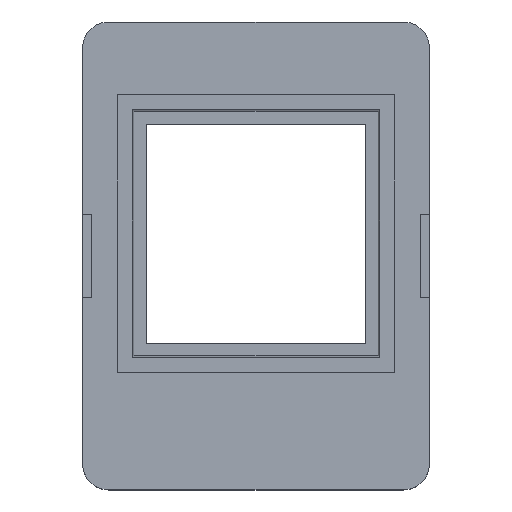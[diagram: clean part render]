
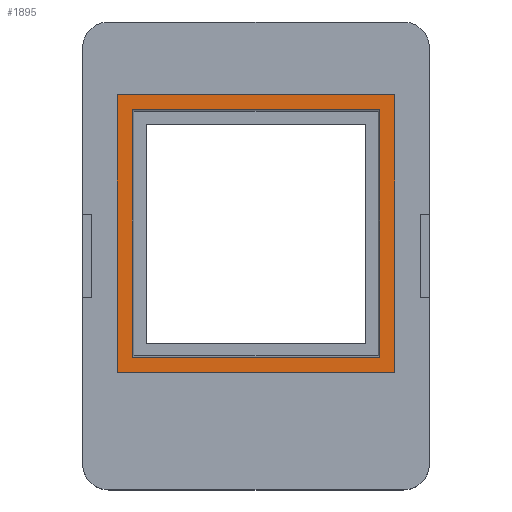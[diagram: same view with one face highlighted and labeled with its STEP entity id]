
A CAD part, top view. The second image highlights one B-rep face of the part: STEP entity #1895.
In plain terms, the highlighted planar face has unit normal (0, 0, 1).
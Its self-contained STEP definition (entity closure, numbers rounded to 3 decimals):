
#627 = PLANE('',#628);
#628 = AXIS2_PLACEMENT_3D('',#629,#630,#631);
#629 = CARTESIAN_POINT('',(-17.15,-14.38,3.));
#630 = DIRECTION('',(1.,0.,0.));
#631 = DIRECTION('',(0.,0.,1.));
#655 = PLANE('',#656);
#656 = AXIS2_PLACEMENT_3D('',#657,#658,#659);
#657 = CARTESIAN_POINT('',(-17.15,19.92,3.));
#658 = DIRECTION('',(0.,1.,0.));
#659 = DIRECTION('',(0.,0.,1.));
#683 = PLANE('',#684);
#684 = AXIS2_PLACEMENT_3D('',#685,#686,#687);
#685 = CARTESIAN_POINT('',(17.15,-14.38,3.));
#686 = DIRECTION('',(1.,0.,0.));
#687 = DIRECTION('',(0.,0.,1.));
#709 = PLANE('',#710);
#710 = AXIS2_PLACEMENT_3D('',#711,#712,#713);
#711 = CARTESIAN_POINT('',(-17.15,-14.38,3.));
#712 = DIRECTION('',(0.,1.,0.));
#713 = DIRECTION('',(0.,0.,1.));
#1499 = VERTEX_POINT('',#1500);
#1500 = CARTESIAN_POINT('',(-17.15,-14.38,6.5));
#1523 = VERTEX_POINT('',#1524);
#1524 = CARTESIAN_POINT('',(-17.15,19.92,6.5));
#1545 = EDGE_CURVE('',#1499,#1523,#1546,.T.);
#1546 = SURFACE_CURVE('',#1547,(#1551,#1558),.PCURVE_S1.);
#1547 = LINE('',#1548,#1549);
#1548 = CARTESIAN_POINT('',(-17.15,-14.38,6.5));
#1549 = VECTOR('',#1550,1.);
#1550 = DIRECTION('',(0.,1.,0.));
#1551 = PCURVE('',#627,#1552);
#1552 = DEFINITIONAL_REPRESENTATION('',(#1553),#1557);
#1553 = LINE('',#1554,#1555);
#1554 = CARTESIAN_POINT('',(3.5,0.));
#1555 = VECTOR('',#1556,1.);
#1556 = DIRECTION('',(0.,-1.));
#1557 = ( GEOMETRIC_REPRESENTATION_CONTEXT(2) 
PARAMETRIC_REPRESENTATION_CONTEXT() REPRESENTATION_CONTEXT('2D SPACE',''
  ) );
#1558 = PCURVE('',#1559,#1564);
#1559 = PLANE('',#1560);
#1560 = AXIS2_PLACEMENT_3D('',#1561,#1562,#1563);
#1561 = CARTESIAN_POINT('',(-17.15,-14.38,6.5));
#1562 = DIRECTION('',(0.,0.,1.));
#1563 = DIRECTION('',(1.,0.,0.));
#1564 = DEFINITIONAL_REPRESENTATION('',(#1565),#1569);
#1565 = LINE('',#1566,#1567);
#1566 = CARTESIAN_POINT('',(0.,0.));
#1567 = VECTOR('',#1568,1.);
#1568 = DIRECTION('',(0.,1.));
#1569 = ( GEOMETRIC_REPRESENTATION_CONTEXT(2) 
PARAMETRIC_REPRESENTATION_CONTEXT() REPRESENTATION_CONTEXT('2D SPACE',''
  ) );
#1576 = EDGE_CURVE('',#1523,#1577,#1579,.T.);
#1577 = VERTEX_POINT('',#1578);
#1578 = CARTESIAN_POINT('',(17.15,19.92,6.5));
#1579 = SURFACE_CURVE('',#1580,(#1584,#1591),.PCURVE_S1.);
#1580 = LINE('',#1581,#1582);
#1581 = CARTESIAN_POINT('',(-17.15,19.92,6.5));
#1582 = VECTOR('',#1583,1.);
#1583 = DIRECTION('',(1.,0.,0.));
#1584 = PCURVE('',#655,#1585);
#1585 = DEFINITIONAL_REPRESENTATION('',(#1586),#1590);
#1586 = LINE('',#1587,#1588);
#1587 = CARTESIAN_POINT('',(3.5,0.));
#1588 = VECTOR('',#1589,1.);
#1589 = DIRECTION('',(0.,1.));
#1590 = ( GEOMETRIC_REPRESENTATION_CONTEXT(2) 
PARAMETRIC_REPRESENTATION_CONTEXT() REPRESENTATION_CONTEXT('2D SPACE',''
  ) );
#1591 = PCURVE('',#1559,#1592);
#1592 = DEFINITIONAL_REPRESENTATION('',(#1593),#1597);
#1593 = LINE('',#1594,#1595);
#1594 = CARTESIAN_POINT('',(0.,34.3));
#1595 = VECTOR('',#1596,1.);
#1596 = DIRECTION('',(1.,0.));
#1597 = ( GEOMETRIC_REPRESENTATION_CONTEXT(2) 
PARAMETRIC_REPRESENTATION_CONTEXT() REPRESENTATION_CONTEXT('2D SPACE',''
  ) );
#1625 = EDGE_CURVE('',#1499,#1626,#1628,.T.);
#1626 = VERTEX_POINT('',#1627);
#1627 = CARTESIAN_POINT('',(17.15,-14.38,6.5));
#1628 = SURFACE_CURVE('',#1629,(#1633,#1640),.PCURVE_S1.);
#1629 = LINE('',#1630,#1631);
#1630 = CARTESIAN_POINT('',(-17.15,-14.38,6.5));
#1631 = VECTOR('',#1632,1.);
#1632 = DIRECTION('',(1.,0.,0.));
#1633 = PCURVE('',#709,#1634);
#1634 = DEFINITIONAL_REPRESENTATION('',(#1635),#1639);
#1635 = LINE('',#1636,#1637);
#1636 = CARTESIAN_POINT('',(3.5,0.));
#1637 = VECTOR('',#1638,1.);
#1638 = DIRECTION('',(0.,1.));
#1639 = ( GEOMETRIC_REPRESENTATION_CONTEXT(2) 
PARAMETRIC_REPRESENTATION_CONTEXT() REPRESENTATION_CONTEXT('2D SPACE',''
  ) );
#1640 = PCURVE('',#1559,#1641);
#1641 = DEFINITIONAL_REPRESENTATION('',(#1642),#1646);
#1642 = LINE('',#1643,#1644);
#1643 = CARTESIAN_POINT('',(0.,0.));
#1644 = VECTOR('',#1645,1.);
#1645 = DIRECTION('',(1.,0.));
#1646 = ( GEOMETRIC_REPRESENTATION_CONTEXT(2) 
PARAMETRIC_REPRESENTATION_CONTEXT() REPRESENTATION_CONTEXT('2D SPACE',''
  ) );
#1675 = EDGE_CURVE('',#1626,#1577,#1676,.T.);
#1676 = SURFACE_CURVE('',#1677,(#1681,#1688),.PCURVE_S1.);
#1677 = LINE('',#1678,#1679);
#1678 = CARTESIAN_POINT('',(17.15,-14.38,6.5));
#1679 = VECTOR('',#1680,1.);
#1680 = DIRECTION('',(0.,1.,0.));
#1681 = PCURVE('',#683,#1682);
#1682 = DEFINITIONAL_REPRESENTATION('',(#1683),#1687);
#1683 = LINE('',#1684,#1685);
#1684 = CARTESIAN_POINT('',(3.5,0.));
#1685 = VECTOR('',#1686,1.);
#1686 = DIRECTION('',(0.,-1.));
#1687 = ( GEOMETRIC_REPRESENTATION_CONTEXT(2) 
PARAMETRIC_REPRESENTATION_CONTEXT() REPRESENTATION_CONTEXT('2D SPACE',''
  ) );
#1688 = PCURVE('',#1559,#1689);
#1689 = DEFINITIONAL_REPRESENTATION('',(#1690),#1694);
#1690 = LINE('',#1691,#1692);
#1691 = CARTESIAN_POINT('',(34.3,0.));
#1692 = VECTOR('',#1693,1.);
#1693 = DIRECTION('',(0.,1.));
#1694 = ( GEOMETRIC_REPRESENTATION_CONTEXT(2) 
PARAMETRIC_REPRESENTATION_CONTEXT() REPRESENTATION_CONTEXT('2D SPACE',''
  ) );
#1895 = ADVANCED_FACE('',(#1896,#1902),#1559,.T.);
#1896 = FACE_BOUND('',#1897,.T.);
#1897 = EDGE_LOOP('',(#1898,#1899,#1900,#1901));
#1898 = ORIENTED_EDGE('',*,*,#1545,.F.);
#1899 = ORIENTED_EDGE('',*,*,#1625,.T.);
#1900 = ORIENTED_EDGE('',*,*,#1675,.T.);
#1901 = ORIENTED_EDGE('',*,*,#1576,.F.);
#1902 = FACE_BOUND('',#1903,.T.);
#1903 = EDGE_LOOP('',(#1904,#1931,#1956,#1981));
#1904 = ORIENTED_EDGE('',*,*,#1905,.T.);
#1905 = EDGE_CURVE('',#1906,#1908,#1910,.T.);
#1906 = VERTEX_POINT('',#1907);
#1907 = CARTESIAN_POINT('',(15.33,18.1,6.5));
#1908 = VERTEX_POINT('',#1909);
#1909 = CARTESIAN_POINT('',(15.33,-12.56,6.5));
#1910 = SURFACE_CURVE('',#1911,(#1914,#1920),.PCURVE_S1.);
#1911 = B_SPLINE_CURVE_WITH_KNOTS('',1,(#1912,#1913),.UNSPECIFIED.,.F.,
  .F.,(2,2),(0.,1.),.PIECEWISE_BEZIER_KNOTS.);
#1912 = CARTESIAN_POINT('',(15.33,18.1,6.5));
#1913 = CARTESIAN_POINT('',(15.33,-12.56,6.5));
#1914 = PCURVE('',#1559,#1915);
#1915 = DEFINITIONAL_REPRESENTATION('',(#1916),#1919);
#1916 = B_SPLINE_CURVE_WITH_KNOTS('',1,(#1917,#1918),.UNSPECIFIED.,.F.,
  .F.,(2,2),(0.,1.),.PIECEWISE_BEZIER_KNOTS.);
#1917 = CARTESIAN_POINT('',(32.48,32.48));
#1918 = CARTESIAN_POINT('',(32.48,1.82));
#1919 = ( GEOMETRIC_REPRESENTATION_CONTEXT(2) 
PARAMETRIC_REPRESENTATION_CONTEXT() REPRESENTATION_CONTEXT('2D SPACE',''
  ) );
#1920 = PCURVE('',#1921,#1926);
#1921 = B_SPLINE_SURFACE_WITH_KNOTS('',1,1,(
    (#1922,#1923)
    ,(#1924,#1925
    )),.UNSPECIFIED.,.F.,.F.,.F.,(2,2),(2,2),(0.,30.7),(0.,1.),
  .PIECEWISE_BEZIER_KNOTS.);
#1922 = CARTESIAN_POINT('',(15.15,-12.38,5.6));
#1923 = CARTESIAN_POINT('',(15.35,-12.58,6.6));
#1924 = CARTESIAN_POINT('',(15.15,17.92,5.6));
#1925 = CARTESIAN_POINT('',(15.35,18.12,6.6));
#1926 = DEFINITIONAL_REPRESENTATION('',(#1927),#1930);
#1927 = B_SPLINE_CURVE_WITH_KNOTS('',1,(#1928,#1929),.UNSPECIFIED.,.F.,
  .F.,(2,2),(0.,1.),.PIECEWISE_BEZIER_KNOTS.);
#1928 = CARTESIAN_POINT('',(30.7,0.9));
#1929 = CARTESIAN_POINT('',(0.,0.9));
#1930 = ( GEOMETRIC_REPRESENTATION_CONTEXT(2) 
PARAMETRIC_REPRESENTATION_CONTEXT() REPRESENTATION_CONTEXT('2D SPACE',''
  ) );
#1931 = ORIENTED_EDGE('',*,*,#1932,.T.);
#1932 = EDGE_CURVE('',#1908,#1933,#1935,.T.);
#1933 = VERTEX_POINT('',#1934);
#1934 = CARTESIAN_POINT('',(-15.33,-12.56,6.5));
#1935 = SURFACE_CURVE('',#1936,(#1939,#1945),.PCURVE_S1.);
#1936 = B_SPLINE_CURVE_WITH_KNOTS('',1,(#1937,#1938),.UNSPECIFIED.,.F.,
  .F.,(2,2),(0.,1.),.PIECEWISE_BEZIER_KNOTS.);
#1937 = CARTESIAN_POINT('',(15.33,-12.56,6.5));
#1938 = CARTESIAN_POINT('',(-15.33,-12.56,6.5));
#1939 = PCURVE('',#1559,#1940);
#1940 = DEFINITIONAL_REPRESENTATION('',(#1941),#1944);
#1941 = B_SPLINE_CURVE_WITH_KNOTS('',1,(#1942,#1943),.UNSPECIFIED.,.F.,
  .F.,(2,2),(0.,1.),.PIECEWISE_BEZIER_KNOTS.);
#1942 = CARTESIAN_POINT('',(32.48,1.82));
#1943 = CARTESIAN_POINT('',(1.82,1.82));
#1944 = ( GEOMETRIC_REPRESENTATION_CONTEXT(2) 
PARAMETRIC_REPRESENTATION_CONTEXT() REPRESENTATION_CONTEXT('2D SPACE',''
  ) );
#1945 = PCURVE('',#1946,#1951);
#1946 = B_SPLINE_SURFACE_WITH_KNOTS('',1,1,(
    (#1947,#1948)
    ,(#1949,#1950
    )),.UNSPECIFIED.,.F.,.F.,.F.,(2,2),(2,2),(0.,30.7),(0.,1.),
  .PIECEWISE_BEZIER_KNOTS.);
#1947 = CARTESIAN_POINT('',(-15.15,-12.38,5.6));
#1948 = CARTESIAN_POINT('',(-15.35,-12.58,6.6));
#1949 = CARTESIAN_POINT('',(15.15,-12.38,5.6));
#1950 = CARTESIAN_POINT('',(15.35,-12.58,6.6));
#1951 = DEFINITIONAL_REPRESENTATION('',(#1952),#1955);
#1952 = B_SPLINE_CURVE_WITH_KNOTS('',1,(#1953,#1954),.UNSPECIFIED.,.F.,
  .F.,(2,2),(0.,1.),.PIECEWISE_BEZIER_KNOTS.);
#1953 = CARTESIAN_POINT('',(30.7,0.9));
#1954 = CARTESIAN_POINT('',(0.,0.9));
#1955 = ( GEOMETRIC_REPRESENTATION_CONTEXT(2) 
PARAMETRIC_REPRESENTATION_CONTEXT() REPRESENTATION_CONTEXT('2D SPACE',''
  ) );
#1956 = ORIENTED_EDGE('',*,*,#1957,.T.);
#1957 = EDGE_CURVE('',#1933,#1958,#1960,.T.);
#1958 = VERTEX_POINT('',#1959);
#1959 = CARTESIAN_POINT('',(-15.33,18.1,6.5));
#1960 = SURFACE_CURVE('',#1961,(#1964,#1970),.PCURVE_S1.);
#1961 = B_SPLINE_CURVE_WITH_KNOTS('',1,(#1962,#1963),.UNSPECIFIED.,.F.,
  .F.,(2,2),(0.,1.),.PIECEWISE_BEZIER_KNOTS.);
#1962 = CARTESIAN_POINT('',(-15.33,-12.56,6.5));
#1963 = CARTESIAN_POINT('',(-15.33,18.1,6.5));
#1964 = PCURVE('',#1559,#1965);
#1965 = DEFINITIONAL_REPRESENTATION('',(#1966),#1969);
#1966 = B_SPLINE_CURVE_WITH_KNOTS('',1,(#1967,#1968),.UNSPECIFIED.,.F.,
  .F.,(2,2),(0.,1.),.PIECEWISE_BEZIER_KNOTS.);
#1967 = CARTESIAN_POINT('',(1.82,1.82));
#1968 = CARTESIAN_POINT('',(1.82,32.48));
#1969 = ( GEOMETRIC_REPRESENTATION_CONTEXT(2) 
PARAMETRIC_REPRESENTATION_CONTEXT() REPRESENTATION_CONTEXT('2D SPACE',''
  ) );
#1970 = PCURVE('',#1971,#1976);
#1971 = B_SPLINE_SURFACE_WITH_KNOTS('',1,1,(
    (#1972,#1973)
    ,(#1974,#1975
    )),.UNSPECIFIED.,.F.,.F.,.F.,(2,2),(2,2),(0.,30.7),(0.,1.),
  .PIECEWISE_BEZIER_KNOTS.);
#1972 = CARTESIAN_POINT('',(-15.15,17.92,5.6));
#1973 = CARTESIAN_POINT('',(-15.35,18.12,6.6));
#1974 = CARTESIAN_POINT('',(-15.15,-12.38,5.6));
#1975 = CARTESIAN_POINT('',(-15.35,-12.58,6.6));
#1976 = DEFINITIONAL_REPRESENTATION('',(#1977),#1980);
#1977 = B_SPLINE_CURVE_WITH_KNOTS('',1,(#1978,#1979),.UNSPECIFIED.,.F.,
  .F.,(2,2),(0.,1.),.PIECEWISE_BEZIER_KNOTS.);
#1978 = CARTESIAN_POINT('',(30.7,0.9));
#1979 = CARTESIAN_POINT('',(0.,0.9));
#1980 = ( GEOMETRIC_REPRESENTATION_CONTEXT(2) 
PARAMETRIC_REPRESENTATION_CONTEXT() REPRESENTATION_CONTEXT('2D SPACE',''
  ) );
#1981 = ORIENTED_EDGE('',*,*,#1982,.T.);
#1982 = EDGE_CURVE('',#1958,#1906,#1983,.T.);
#1983 = SURFACE_CURVE('',#1984,(#1987,#1993),.PCURVE_S1.);
#1984 = B_SPLINE_CURVE_WITH_KNOTS('',1,(#1985,#1986),.UNSPECIFIED.,.F.,
  .F.,(2,2),(0.,1.),.PIECEWISE_BEZIER_KNOTS.);
#1985 = CARTESIAN_POINT('',(-15.33,18.1,6.5));
#1986 = CARTESIAN_POINT('',(15.33,18.1,6.5));
#1987 = PCURVE('',#1559,#1988);
#1988 = DEFINITIONAL_REPRESENTATION('',(#1989),#1992);
#1989 = B_SPLINE_CURVE_WITH_KNOTS('',1,(#1990,#1991),.UNSPECIFIED.,.F.,
  .F.,(2,2),(0.,1.),.PIECEWISE_BEZIER_KNOTS.);
#1990 = CARTESIAN_POINT('',(1.82,32.48));
#1991 = CARTESIAN_POINT('',(32.48,32.48));
#1992 = ( GEOMETRIC_REPRESENTATION_CONTEXT(2) 
PARAMETRIC_REPRESENTATION_CONTEXT() REPRESENTATION_CONTEXT('2D SPACE',''
  ) );
#1993 = PCURVE('',#1994,#1999);
#1994 = B_SPLINE_SURFACE_WITH_KNOTS('',1,1,(
    (#1995,#1996)
    ,(#1997,#1998
    )),.UNSPECIFIED.,.F.,.F.,.F.,(2,2),(2,2),(0.,30.7),(0.,1.),
  .PIECEWISE_BEZIER_KNOTS.);
#1995 = CARTESIAN_POINT('',(15.15,17.92,5.6));
#1996 = CARTESIAN_POINT('',(15.35,18.12,6.6));
#1997 = CARTESIAN_POINT('',(-15.15,17.92,5.6));
#1998 = CARTESIAN_POINT('',(-15.35,18.12,6.6));
#1999 = DEFINITIONAL_REPRESENTATION('',(#2000),#2003);
#2000 = B_SPLINE_CURVE_WITH_KNOTS('',1,(#2001,#2002),.UNSPECIFIED.,.F.,
  .F.,(2,2),(0.,1.),.PIECEWISE_BEZIER_KNOTS.);
#2001 = CARTESIAN_POINT('',(30.7,0.9));
#2002 = CARTESIAN_POINT('',(0.,0.9));
#2003 = ( GEOMETRIC_REPRESENTATION_CONTEXT(2) 
PARAMETRIC_REPRESENTATION_CONTEXT() REPRESENTATION_CONTEXT('2D SPACE',''
  ) );
